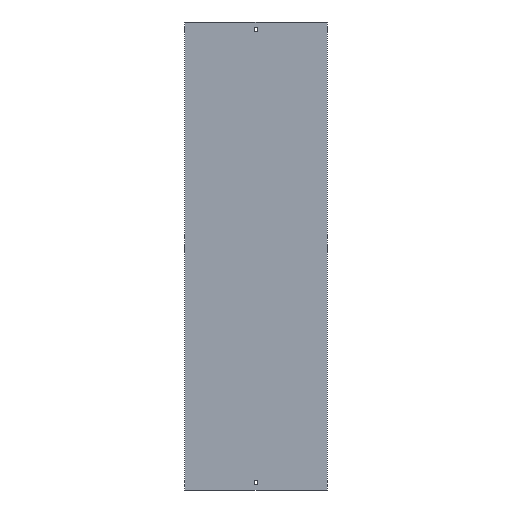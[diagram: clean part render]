
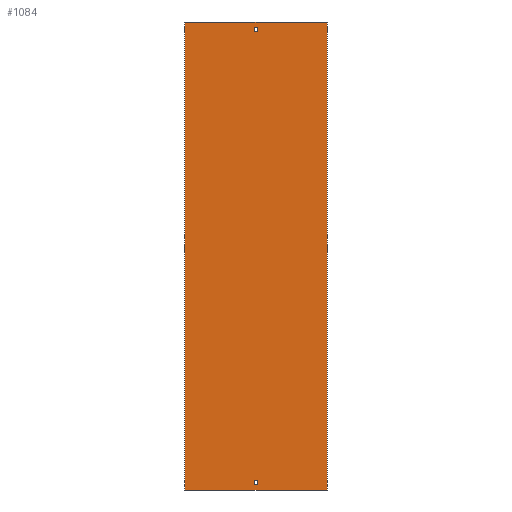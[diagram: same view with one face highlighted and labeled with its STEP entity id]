
A CAD part, front view. The second image highlights one B-rep face of the part: STEP entity #1084.
In plain terms, the highlighted planar face has unit normal (0, -1, 0).
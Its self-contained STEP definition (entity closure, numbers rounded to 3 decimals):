
#1 = LINE ( 'NONE', #783, #548 ) ;
#6 = VERTEX_POINT ( 'NONE', #1096 ) ;
#15 = EDGE_CURVE ( 'NONE', #619, #798, #1, .T. ) ;
#24 = EDGE_LOOP ( 'NONE', ( #1022, #105, #1090, #360 ) ) ;
#38 = DIRECTION ( 'NONE',  ( -1., 0., 0. ) ) ;
#56 = EDGE_CURVE ( 'NONE', #79, #719, #762, .T. ) ;
#74 = CARTESIAN_POINT ( 'NONE',  ( -152., 0., -500. ) ) ;
#79 = VERTEX_POINT ( 'NONE', #164 ) ;
#83 = EDGE_CURVE ( 'NONE', #798, #168, #88, .T. ) ;
#88 = LINE ( 'NONE', #874, #513 ) ;
#91 = EDGE_CURVE ( 'NONE', #907, #79, #855, .T. ) ;
#99 = CARTESIAN_POINT ( 'NONE',  ( -3.25, 0., -488. ) ) ;
#105 = ORIENTED_EDGE ( 'NONE', *, *, #1050, .T. ) ;
#110 = CARTESIAN_POINT ( 'NONE',  ( 3.25, 0., -479. ) ) ;
#113 = DIRECTION ( 'NONE',  ( 0., 0., -1. ) ) ;
#127 = FACE_BOUND ( 'NONE', #185, .T. ) ;
#164 = CARTESIAN_POINT ( 'NONE',  ( 3.25, 0., 479. ) ) ;
#168 = VERTEX_POINT ( 'NONE', #370 ) ;
#170 = VECTOR ( 'NONE', #467, 1000. ) ;
#172 = DIRECTION ( 'NONE',  ( 1., 0., 0. ) ) ;
#184 = LINE ( 'NONE', #99, #402 ) ;
#185 = EDGE_LOOP ( 'NONE', ( #444, #784, #237, #1020 ) ) ;
#186 = LINE ( 'NONE', #266, #497 ) ;
#192 = VECTOR ( 'NONE', #713, 1000. ) ;
#204 = EDGE_CURVE ( 'NONE', #6, #907, #282, .T. ) ;
#220 = DIRECTION ( 'NONE',  ( 0., 1., 0. ) ) ;
#231 = VERTEX_POINT ( 'NONE', #881 ) ;
#234 = LINE ( 'NONE', #558, #901 ) ;
#237 = ORIENTED_EDGE ( 'NONE', *, *, #998, .F. ) ;
#241 = VECTOR ( 'NONE', #1131, 1000. ) ;
#246 = CARTESIAN_POINT ( 'NONE',  ( -3.25, 0., -488. ) ) ;
#264 = CARTESIAN_POINT ( 'NONE',  ( 3.25, 0., 488. ) ) ;
#266 = CARTESIAN_POINT ( 'NONE',  ( -3.25, 0., 488. ) ) ;
#270 = EDGE_CURVE ( 'NONE', #432, #726, #184, .T. ) ;
#282 = LINE ( 'NONE', #618, #989 ) ;
#328 = DIRECTION ( 'NONE',  ( 0., 0., -1. ) ) ;
#340 = DIRECTION ( 'NONE',  ( 1., 0., 0. ) ) ;
#359 = LINE ( 'NONE', #779, #192 ) ;
#360 = ORIENTED_EDGE ( 'NONE', *, *, #270, .T. ) ;
#370 = CARTESIAN_POINT ( 'NONE',  ( 152., 0., -500. ) ) ;
#384 = VECTOR ( 'NONE', #760, 1000. ) ;
#402 = VECTOR ( 'NONE', #540, 1000. ) ;
#415 = EDGE_CURVE ( 'NONE', #1101, #168, #234, .T. ) ;
#429 = EDGE_LOOP ( 'NONE', ( #897, #439, #1033, #450 ) ) ;
#432 = VERTEX_POINT ( 'NONE', #931 ) ;
#438 = VECTOR ( 'NONE', #113, 1000. ) ;
#439 = ORIENTED_EDGE ( 'NONE', *, *, #415, .F. ) ;
#444 = ORIENTED_EDGE ( 'NONE', *, *, #91, .F. ) ;
#450 = ORIENTED_EDGE ( 'NONE', *, *, #15, .T. ) ;
#463 = FACE_BOUND ( 'NONE', #24, .T. ) ;
#467 = DIRECTION ( 'NONE',  ( 1., 0., 0. ) ) ;
#470 = EDGE_CURVE ( 'NONE', #726, #231, #782, .T. ) ;
#497 = VECTOR ( 'NONE', #797, 1000. ) ;
#513 = VECTOR ( 'NONE', #340, 1000. ) ;
#540 = DIRECTION ( 'NONE',  ( -1., 0., 0. ) ) ;
#548 = VECTOR ( 'NONE', #328, 1000. ) ;
#558 = CARTESIAN_POINT ( 'NONE',  ( 152., 0., 500. ) ) ;
#577 = EDGE_CURVE ( 'NONE', #1012, #432, #635, .T. ) ;
#618 = CARTESIAN_POINT ( 'NONE',  ( -3.25, 0., 488. ) ) ;
#619 = VERTEX_POINT ( 'NONE', #714 ) ;
#631 = DIRECTION ( 'NONE',  ( 0., 0., -1. ) ) ;
#635 = LINE ( 'NONE', #983, #438 ) ;
#637 = PLANE ( 'NONE',  #1106 ) ;
#639 = CARTESIAN_POINT ( 'NONE',  ( -3.25, 0., -488. ) ) ;
#660 = LINE ( 'NONE', #923, #170 ) ;
#683 = CARTESIAN_POINT ( 'NONE',  ( -3.25, 0., 479. ) ) ;
#713 = DIRECTION ( 'NONE',  ( 1., 0., 0. ) ) ;
#714 = CARTESIAN_POINT ( 'NONE',  ( -152., 0., 500. ) ) ;
#719 = VERTEX_POINT ( 'NONE', #833 ) ;
#726 = VERTEX_POINT ( 'NONE', #639 ) ;
#760 = DIRECTION ( 'NONE',  ( 0., 0., 1. ) ) ;
#762 = LINE ( 'NONE', #264, #241 ) ;
#779 = CARTESIAN_POINT ( 'NONE',  ( -152., 0., 500. ) ) ;
#782 = LINE ( 'NONE', #246, #384 ) ;
#783 = CARTESIAN_POINT ( 'NONE',  ( -152., 0., 500. ) ) ;
#784 = ORIENTED_EDGE ( 'NONE', *, *, #204, .F. ) ;
#797 = DIRECTION ( 'NONE',  ( -1., 0., 0. ) ) ;
#798 = VERTEX_POINT ( 'NONE', #74 ) ;
#805 = VECTOR ( 'NONE', #172, 1000. ) ;
#824 = CARTESIAN_POINT ( 'NONE',  ( 152., 0., 500. ) ) ;
#833 = CARTESIAN_POINT ( 'NONE',  ( 3.25, 0., 488. ) ) ;
#855 = LINE ( 'NONE', #1115, #805 ) ;
#874 = CARTESIAN_POINT ( 'NONE',  ( -152., 0., -500. ) ) ;
#881 = CARTESIAN_POINT ( 'NONE',  ( -3.25, 0., -479. ) ) ;
#897 = ORIENTED_EDGE ( 'NONE', *, *, #83, .T. ) ;
#901 = VECTOR ( 'NONE', #910, 1000. ) ;
#907 = VERTEX_POINT ( 'NONE', #683 ) ;
#910 = DIRECTION ( 'NONE',  ( 0., 0., -1. ) ) ;
#923 = CARTESIAN_POINT ( 'NONE',  ( -3.25, 0., -479. ) ) ;
#931 = CARTESIAN_POINT ( 'NONE',  ( 3.25, 0., -488. ) ) ;
#983 = CARTESIAN_POINT ( 'NONE',  ( 3.25, 0., -488. ) ) ;
#989 = VECTOR ( 'NONE', #631, 1000. ) ;
#998 = EDGE_CURVE ( 'NONE', #719, #6, #186, .T. ) ;
#1012 = VERTEX_POINT ( 'NONE', #110 ) ;
#1020 = ORIENTED_EDGE ( 'NONE', *, *, #56, .F. ) ;
#1021 = EDGE_CURVE ( 'NONE', #619, #1101, #359, .T. ) ;
#1022 = ORIENTED_EDGE ( 'NONE', *, *, #470, .T. ) ;
#1033 = ORIENTED_EDGE ( 'NONE', *, *, #1021, .F. ) ;
#1050 = EDGE_CURVE ( 'NONE', #231, #1012, #660, .T. ) ;
#1075 = FACE_OUTER_BOUND ( 'NONE', #429, .T. ) ;
#1079 = CARTESIAN_POINT ( 'NONE',  ( -152., 0., 500. ) ) ;
#1084 = ADVANCED_FACE ( 'NONE', ( #1075, #127, #463 ), #637, .F. ) ;
#1090 = ORIENTED_EDGE ( 'NONE', *, *, #577, .T. ) ;
#1096 = CARTESIAN_POINT ( 'NONE',  ( -3.25, 0., 488. ) ) ;
#1101 = VERTEX_POINT ( 'NONE', #824 ) ;
#1106 = AXIS2_PLACEMENT_3D ( 'NONE', #1079, #220, #38 ) ;
#1115 = CARTESIAN_POINT ( 'NONE',  ( -3.25, 0., 479. ) ) ;
#1131 = DIRECTION ( 'NONE',  ( 0., 0., 1. ) ) ;
